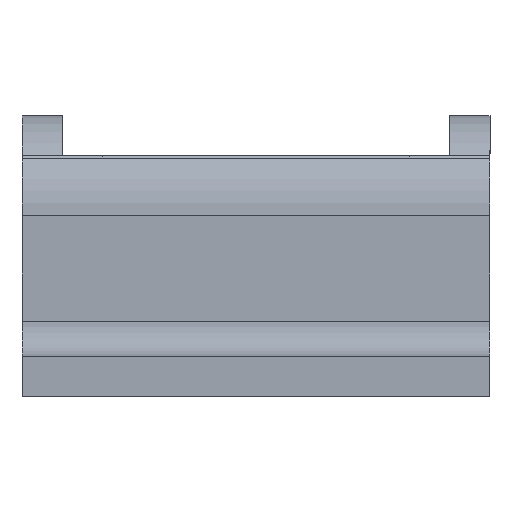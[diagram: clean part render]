
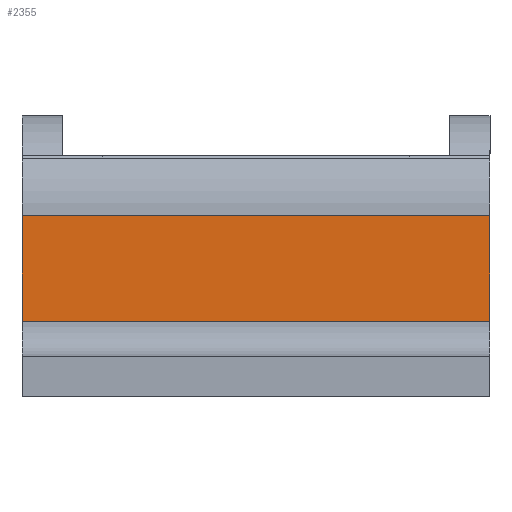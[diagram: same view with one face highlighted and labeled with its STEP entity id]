
A CAD part, left-side view. The second image highlights one B-rep face of the part: STEP entity #2355.
In plain terms, the highlighted planar face has unit normal (-1, 0, 0).
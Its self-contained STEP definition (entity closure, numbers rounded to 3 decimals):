
#32 = VECTOR ( 'NONE', #2226, 1000. ) ;
#99 = CARTESIAN_POINT ( 'NONE',  ( -8., 0.515, -3. ) ) ;
#184 = PLANE ( 'NONE',  #589 ) ;
#265 = EDGE_CURVE ( 'NONE', #624, #2034, #734, .T. ) ;
#306 = LINE ( 'NONE', #99, #941 ) ;
#350 = ORIENTED_EDGE ( 'NONE', *, *, #265, .T. ) ;
#392 = CARTESIAN_POINT ( 'NONE',  ( -8., -7.4, -3. ) ) ;
#589 = AXIS2_PLACEMENT_3D ( 'NONE', #1446, #2470, #801 ) ;
#624 = VERTEX_POINT ( 'NONE', #1056 ) ;
#734 = LINE ( 'NONE', #1740, #1402 ) ;
#743 = CARTESIAN_POINT ( 'NONE',  ( -8., -5., 32. ) ) ;
#801 = DIRECTION ( 'NONE',  ( 0., 0., 1. ) ) ;
#941 = VECTOR ( 'NONE', #2387, 1000. ) ;
#1056 = CARTESIAN_POINT ( 'NONE',  ( -8., 0.515, -3. ) ) ;
#1205 = ORIENTED_EDGE ( 'NONE', *, *, #1898, .T. ) ;
#1315 = EDGE_CURVE ( 'NONE', #1636, #624, #306, .T. ) ;
#1402 = VECTOR ( 'NONE', #1727, 1000. ) ;
#1418 = LINE ( 'NONE', #392, #32 ) ;
#1446 = CARTESIAN_POINT ( 'NONE',  ( -8., 5., -3. ) ) ;
#1636 = VERTEX_POINT ( 'NONE', #1679 ) ;
#1659 = CARTESIAN_POINT ( 'NONE',  ( -8., -7.4, -3. ) ) ;
#1679 = CARTESIAN_POINT ( 'NONE',  ( -8., 0.515, 32. ) ) ;
#1698 = EDGE_CURVE ( 'NONE', #1756, #1636, #2608, .T. ) ;
#1727 = DIRECTION ( 'NONE',  ( 0., -1., 0. ) ) ;
#1736 = CARTESIAN_POINT ( 'NONE',  ( -8., -7.4, 32. ) ) ;
#1740 = CARTESIAN_POINT ( 'NONE',  ( -8., 5., -3. ) ) ;
#1756 = VERTEX_POINT ( 'NONE', #1736 ) ;
#1898 = EDGE_CURVE ( 'NONE', #2034, #1756, #1418, .T. ) ;
#1901 = ORIENTED_EDGE ( 'NONE', *, *, #1315, .T. ) ;
#1990 = EDGE_LOOP ( 'NONE', ( #2158, #1901, #350, #1205 ) ) ;
#2034 = VERTEX_POINT ( 'NONE', #1659 ) ;
#2158 = ORIENTED_EDGE ( 'NONE', *, *, #1698, .T. ) ;
#2160 = VECTOR ( 'NONE', #2165, 1000. ) ;
#2165 = DIRECTION ( 'NONE',  ( 0., 1., 0. ) ) ;
#2226 = DIRECTION ( 'NONE',  ( 0., 0., 1. ) ) ;
#2248 = FACE_OUTER_BOUND ( 'NONE', #1990, .T. ) ;
#2355 = ADVANCED_FACE ( 'NONE', ( #2248 ), #184, .T. ) ;
#2387 = DIRECTION ( 'NONE',  ( 0., 0., -1. ) ) ;
#2470 = DIRECTION ( 'NONE',  ( -1., 0., 0. ) ) ;
#2608 = LINE ( 'NONE', #743, #2160 ) ;
